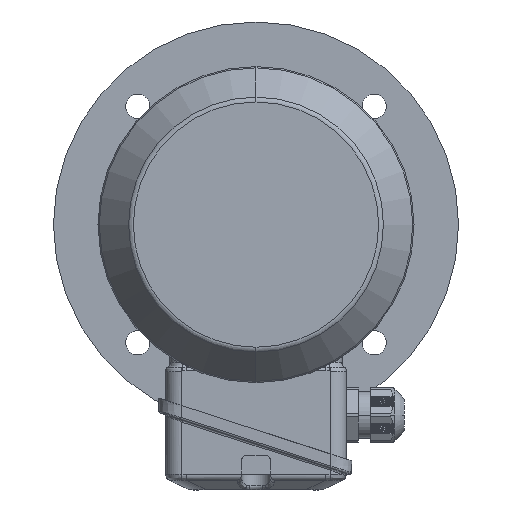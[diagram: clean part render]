
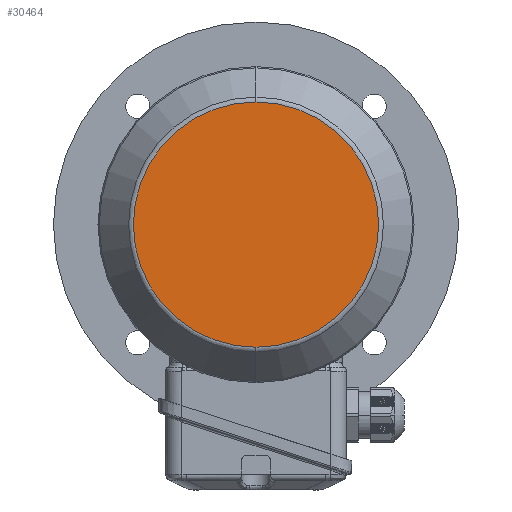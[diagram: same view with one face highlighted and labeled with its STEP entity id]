
A CAD part, left-side view. The second image highlights one B-rep face of the part: STEP entity #30464.
In plain terms, the highlighted planar face has unit normal (-1, 0, 0).
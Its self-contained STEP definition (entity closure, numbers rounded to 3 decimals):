
#53 = CIRCLE ( 'NONE', #291, 60.537 ) ;
#291 = AXIS2_PLACEMENT_3D ( 'NONE', #1989, #8105, #1880 ) ;
#1880 = DIRECTION ( 'NONE',  ( 0., 0., -1. ) ) ;
#1989 = CARTESIAN_POINT ( 'NONE',  ( -167.9, 0., 0. ) ) ;
#3930 = AXIS2_PLACEMENT_3D ( 'NONE', #25546, #37216, #10662 ) ;
#5474 = CARTESIAN_POINT ( 'NONE',  ( -167.9, 0., 60.537 ) ) ;
#6900 = PLANE ( 'NONE',  #3930 ) ;
#8105 = DIRECTION ( 'NONE',  ( 1., 0., 0. ) ) ;
#10662 = DIRECTION ( 'NONE',  ( 0., 0., 1. ) ) ;
#11383 = FACE_OUTER_BOUND ( 'NONE', #23847, .T. ) ;
#13986 = CARTESIAN_POINT ( 'NONE',  ( -167.9, 0., 0. ) ) ;
#15763 = CIRCLE ( 'NONE', #31867, 60.537 ) ;
#16519 = CARTESIAN_POINT ( 'NONE',  ( -167.9, 0., -60.537 ) ) ;
#16684 = DIRECTION ( 'NONE',  ( 1., 0., 0. ) ) ;
#17392 = ORIENTED_EDGE ( 'NONE', *, *, #29039, .F. ) ;
#23539 = VERTEX_POINT ( 'NONE', #16519 ) ;
#23847 = EDGE_LOOP ( 'NONE', ( #33729, #17392 ) ) ;
#25546 = CARTESIAN_POINT ( 'NONE',  ( -167.9, 0., -60.537 ) ) ;
#27933 = EDGE_CURVE ( 'NONE', #23539, #35595, #53, .T. ) ;
#28765 = DIRECTION ( 'NONE',  ( 0., 0., -1. ) ) ;
#29039 = EDGE_CURVE ( 'NONE', #35595, #23539, #15763, .T. ) ;
#30464 = ADVANCED_FACE ( 'NONE', ( #11383 ), #6900, .T. ) ;
#31867 = AXIS2_PLACEMENT_3D ( 'NONE', #13986, #16684, #28765 ) ;
#33729 = ORIENTED_EDGE ( 'NONE', *, *, #27933, .F. ) ;
#35595 = VERTEX_POINT ( 'NONE', #5474 ) ;
#37216 = DIRECTION ( 'NONE',  ( -1., 0., 0. ) ) ;
